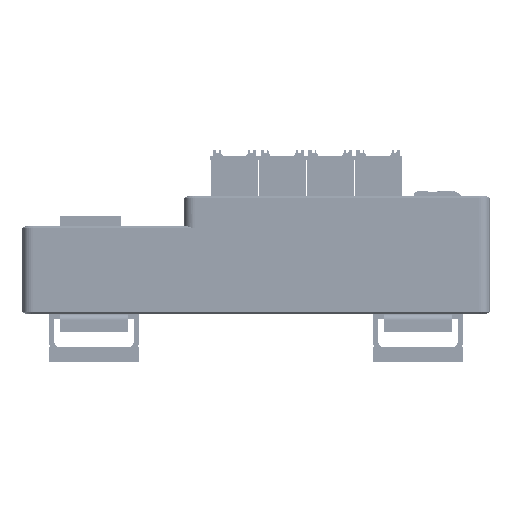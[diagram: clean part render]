
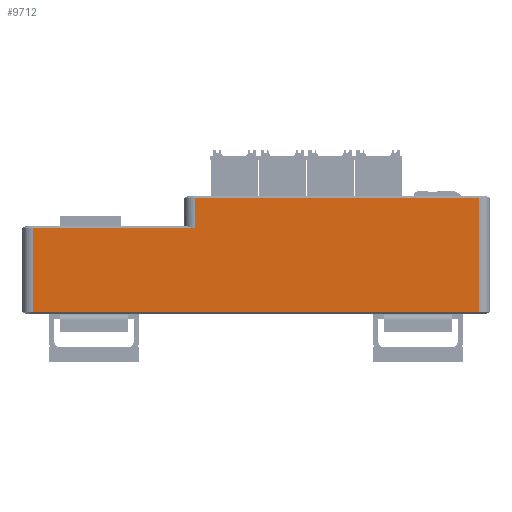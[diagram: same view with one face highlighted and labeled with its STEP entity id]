
A CAD part, front view. The second image highlights one B-rep face of the part: STEP entity #9712.
In plain terms, the highlighted planar face has unit normal (0, -1, 0).
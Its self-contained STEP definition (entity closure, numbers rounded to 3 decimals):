
#383=DIRECTION('',(1.,0.,0.));
#384=VECTOR('',#383,123.95);
#385=CARTESIAN_POINT('',(-57.,-33.5,
-31.7));
#386=LINE('',#385,#384);
#397=DIRECTION('',(1.,0.,0.));
#398=VECTOR('',#397,45.);
#399=CARTESIAN_POINT('',(-57.,-33.5,
-8.3));
#400=LINE('',#399,#398);
#411=DIRECTION('',(-1.,0.,0.));
#412=VECTOR('',#411,78.95);
#413=CARTESIAN_POINT('',(66.95,-33.5,
0.));
#414=LINE('',#413,#412);
#534=DIRECTION('',(0.,0.,1.));
#535=VECTOR('',#534,31.7);
#536=CARTESIAN_POINT('',(66.95,-33.5,-31.7));
#537=LINE('',#536,#535);
#5531=DIRECTION('',(0.,0.,-1.));
#5532=VECTOR('',#5531,23.4);
#5533=CARTESIAN_POINT('',(-57.,-33.5,
-8.3));
#5534=LINE('',#5533,#5532);
#5697=DIRECTION('',(0.,0.,-1.));
#5698=VECTOR('',#5697,8.3);
#5699=CARTESIAN_POINT('',(-12.,-33.5,
0.));
#5700=LINE('',#5699,#5698);
#8297=CARTESIAN_POINT('',(-57.,-33.5,
-31.7));
#8298=CARTESIAN_POINT('',(66.95,-33.5,
-31.7));
#8299=VERTEX_POINT('',#8297);
#8300=VERTEX_POINT('',#8298);
#8301=CARTESIAN_POINT('',(66.95,-33.5,
0.));
#8302=CARTESIAN_POINT('',(-12.,-33.5,
0.));
#8303=VERTEX_POINT('',#8301);
#8304=VERTEX_POINT('',#8302);
#8305=CARTESIAN_POINT('',(-57.,-33.5,
-8.3));
#8306=VERTEX_POINT('',#8305);
#8307=CARTESIAN_POINT('',(-12.,-33.5,
-8.3));
#8308=VERTEX_POINT('',#8307);
#9694=CARTESIAN_POINT('',(123.7,-33.5,-1.8));
#9695=DIRECTION('',(0.,1.,0.));
#9696=DIRECTION('',(0.,0.,-1.));
#9697=AXIS2_PLACEMENT_3D('',#9694,#9695,#9696);
#9698=PLANE('',#9697);
#9700=ORIENTED_EDGE('',*,*,#9699,.F.);
#9702=ORIENTED_EDGE('',*,*,#9701,.F.);
#9703=ORIENTED_EDGE('',*,*,#9677,.F.);
#9705=ORIENTED_EDGE('',*,*,#9704,.F.);
#9707=ORIENTED_EDGE('',*,*,#9706,.T.);
#9709=ORIENTED_EDGE('',*,*,#9708,.F.);
#9710=EDGE_LOOP('',(#9700,#9702,#9703,#9705,#9707,#9709));
#9711=FACE_OUTER_BOUND('',#9710,.F.);
#9677=EDGE_CURVE('',#8299,#8300,#386,.T.);
#9699=EDGE_CURVE('',#8303,#8304,#414,.T.);
#9701=EDGE_CURVE('',#8300,#8303,#537,.T.);
#9704=EDGE_CURVE('',#8306,#8299,#5534,.T.);
#9706=EDGE_CURVE('',#8306,#8308,#400,.T.);
#9708=EDGE_CURVE('',#8304,#8308,#5700,.T.);
#9712=ADVANCED_FACE('',(#9711),#9698,.F.);
